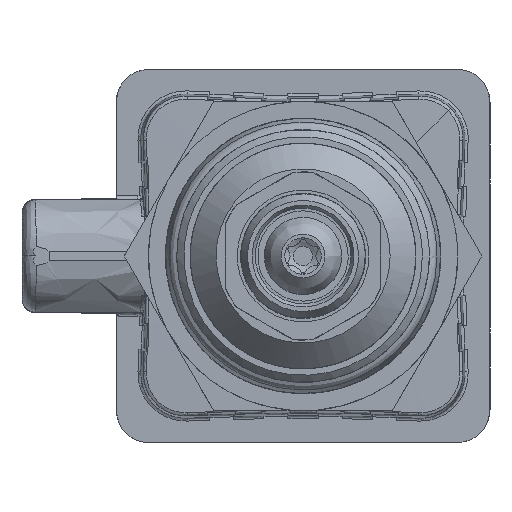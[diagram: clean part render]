
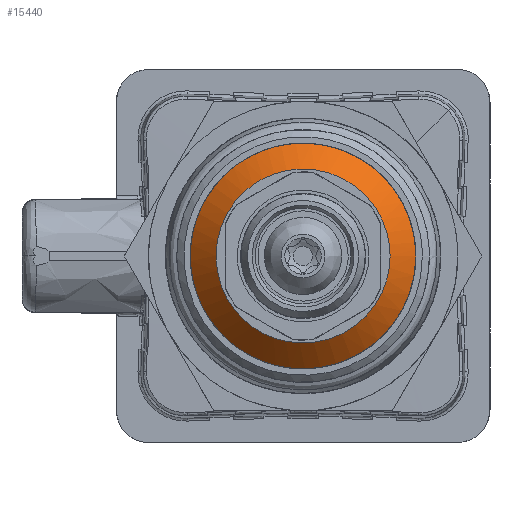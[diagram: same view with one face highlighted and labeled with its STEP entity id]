
A CAD part, front view. The second image highlights one B-rep face of the part: STEP entity #15440.
In plain terms, the highlighted free-form (B-spline) face has degree [2, 1] with [7, 2] control points.
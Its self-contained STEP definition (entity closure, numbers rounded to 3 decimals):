
#15342=CARTESIAN_POINT('V146',(6.75,-29.3,
   0.0));
#15343=VERTEX_POINT('V146',#15342);
#15344=CARTESIAN_POINT('E209',(6.75,-29.3,
   0.0));
#15345=CARTESIAN_POINT('E209',(6.75,-29.3,
   -11.691));
#15346=CARTESIAN_POINT('E209',(-3.375,
   -29.3,-5.846));
#15347=CARTESIAN_POINT('E209',(-13.5,
   -29.3,0.));
#15348=CARTESIAN_POINT('E209',(-3.375,
   -29.3,5.846));
#15349=CARTESIAN_POINT('E209',(6.75,-29.3,
   11.691));
#15350=CARTESIAN_POINT('E209',(6.75,-29.3,
   0.0));
#15358=(BOUNDED_CURVE()B_SPLINE_CURVE(2,(#15344,#15345,#15346,
   #15347,#15348,#15349,#15350),.CIRCULAR_ARC.,.T.,.U.)
   B_SPLINE_CURVE_WITH_KNOTS((3,2,2,3),(0.0,9.492,
   18.984,28.475),.UNSPECIFIED.)CURVE()
   GEOMETRIC_REPRESENTATION_ITEM()RATIONAL_B_SPLINE_CURVE((1.0,
   0.5,1.0,0.5,1.0,0.5,1.0)
   )REPRESENTATION_ITEM('E209'));
#15359=EDGE_CURVE('E209',#15343,#15343,#15358,.T.);
#15390=CARTESIAN_POINT('F96',(6.75,-29.3,
   0.0));
#15391=CARTESIAN_POINT('F96',(6.75,-29.3,
   -11.691));
#15392=CARTESIAN_POINT('F96',(-3.375,-29.3,
   -5.846));
#15393=CARTESIAN_POINT('F96',(-13.5,
   -29.3,0.));
#15394=CARTESIAN_POINT('F96',(-3.375,-29.3,
   5.846));
#15395=CARTESIAN_POINT('F96',(6.75,-29.3,
   11.691));
#15396=CARTESIAN_POINT('F96',(6.75,-29.3,
   0.0));
#15397=CARTESIAN_POINT('F96',(8.75,-27.3,
   0.0));
#15398=CARTESIAN_POINT('F96',(8.75,-27.3,
   -15.155));
#15399=CARTESIAN_POINT('F96',(-4.375,-27.3,
   -7.578));
#15400=CARTESIAN_POINT('F96',(-17.5,
   -27.3,0.));
#15401=CARTESIAN_POINT('F96',(-4.375,-27.3,
   7.578));
#15402=CARTESIAN_POINT('F96',(8.75,-27.3,
   15.155));
#15403=CARTESIAN_POINT('F96',(8.75,-27.3,
   0.0));
#15411=(BOUNDED_SURFACE()B_SPLINE_SURFACE(2,1,((#15390,#15397),(
   #15391,#15398),(#15392,#15399),(#15393,#15400),(#15394,
   #15401),(#15395,#15402),(#15396,#15403)),.CONICAL_SURF.,.T.,
   .F.,.U.)B_SPLINE_SURFACE_WITH_KNOTS((3,2,2,3),(2,2),(0.0,
   9.492,18.984,28.475),(0.0,
   1.0),.UNSPECIFIED.)GEOMETRIC_REPRESENTATION_ITEM()
   RATIONAL_B_SPLINE_SURFACE(((1.0,1.0),(0.5,
   0.5),(1.0,1.0),(0.5,
   0.5),(1.0,1.0),(0.5,
   0.5),(1.0,1.0)))REPRESENTATION_ITEM('F96')SURFACE(
   ));
#15412=CARTESIAN_POINT('V152',(8.75,-27.3,
   0.0));
#15413=VERTEX_POINT('V152',#15412);
#15414=CARTESIAN_POINT('E234',(8.75,-27.3,
   0.0));
#15415=CARTESIAN_POINT('E234',(6.75,-29.3,
   0.0));
#15416=QUASI_UNIFORM_CURVE('E234',1,(#15414,#15415),.POLYLINE_FORM.,
   .F.,.U.);
#15417=EDGE_CURVE('E234',#15413,#15343,#15416,.T.);
#15418=ORIENTED_EDGE('E234',*,*,#15417,.T.);
#15419=ORIENTED_EDGE('F75',*,*,#15359,.T.);
#15420=ORIENTED_EDGE('E234',*,*,#15417,.F.);
#15421=CARTESIAN_POINT('E235',(8.75,-27.3,
   0.0));
#15422=CARTESIAN_POINT('E235',(8.75,-27.3,
   -15.155));
#15423=CARTESIAN_POINT('E235',(-4.375,
   -27.3,-7.578));
#15424=CARTESIAN_POINT('E235',(-17.5,
   -27.3,0.));
#15425=CARTESIAN_POINT('E235',(-4.375,
   -27.3,7.578));
#15426=CARTESIAN_POINT('E235',(8.75,-27.3,
   15.155));
#15427=CARTESIAN_POINT('E235',(8.75,-27.3,
   0.0));
#15435=(BOUNDED_CURVE()B_SPLINE_CURVE(2,(#15421,#15422,#15423,
   #15424,#15425,#15426,#15427),.CIRCULAR_ARC.,.T.,.U.)
   B_SPLINE_CURVE_WITH_KNOTS((3,2,2,3),(0.0,60.622,
   121.244,181.865),.UNSPECIFIED.)CURVE()
   GEOMETRIC_REPRESENTATION_ITEM()RATIONAL_B_SPLINE_CURVE((1.0,
   0.5,1.0,0.5,1.0,0.5,1.0)
   )REPRESENTATION_ITEM('E235'));
#15436=EDGE_CURVE('E235',#15413,#15413,#15435,.T.);
#15437=ORIENTED_EDGE('E235',*,*,#15436,.F.);
#15438=EDGE_LOOP('F96',(#15418,#15419,#15420,#15437));
#15439=FACE_OUTER_BOUND('F96',#15438,.T.);
#15440=ADVANCED_FACE('F96',(#15439),#15411,.T.);
